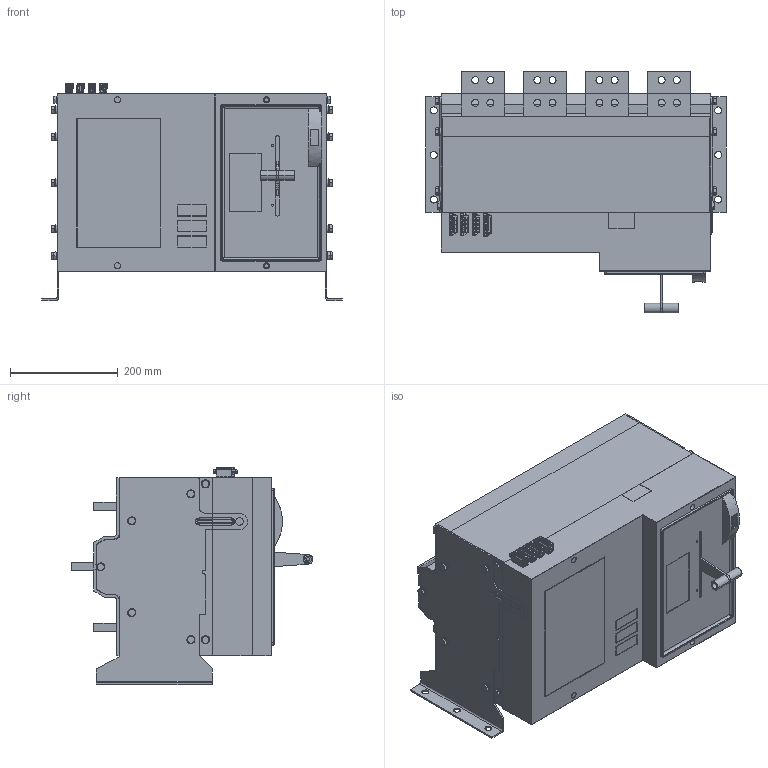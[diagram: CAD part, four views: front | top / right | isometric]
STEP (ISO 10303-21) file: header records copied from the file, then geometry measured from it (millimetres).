
FILE_DESCRIPTION (( 'STEP AP214' ), '1' );
FILE_NAME ('XKQE3150-1600A-4P.STEP', '2023-04-21T01:53:03', ( '' ), ( '' ), 'SwSTEP 2.0', 'SolidWorks 2020', '' );
FILE_SCHEMA (( 'AUTOMOTIVE_DESIGN' ));
Length unit declared in the file: millimetre
Products named in the file (11): 5XKQE.050.101.STEP.STEP; 1_2_1.STEP.STEP; 8XKQE-253-101_1_1.STEP.STEP; 媼棒傷赽; M8-25________.STEP; 5XKQE-024-102_3_2.STEP.STEP; XKQE3150-1600A-4P; 8XKQE-050-124_3_1.STEP.STEP; 5XKQE.551.127.2-4.STEP.STEP; 8XKQE-253-102_1_1.STEP.STEP; 8XKQE-003-100___.STEP.STEP
Assembly tree (26 placements, depth 2):
  XKQE3150-1600A-4P
    8XKQE-050-124_3_1.STEP.STEP
    1_2_1.STEP.STEP
    5XKQE.050.101.STEP.STEP
    8XKQE-253-102_1_1.STEP.STEP  x2
    8XKQE-003-100___.STEP.STEP
    8XKQE-253-101_1_1.STEP.STEP
    5XKQE-024-102_3_2.STEP.STEP
    5XKQE.551.127.2-4.STEP.STEP  x3
    M8-25________.STEP  x14
    媼棒傷赽
Bounding box: 557 x 448 x 402 mm (x, y, z)
Volume: 45266799 mm3; surface area: 2224997.1 mm2
Topology: 93 solids, 198 shells, 6202 faces, 16103 edges, 10531 vertices
Faces by surface type: plane 3914, cylinder 1484, cone 481, bspline 249, torus 66, sphere 8
Entity records: 243012 total; most frequent: CARTESIAN_POINT 50697, ORIENTED_EDGE 29590, DIRECTION 26190, EDGE_CURVE 14795, VECTOR 10056, LINE 10056, VERTEX_POINT 9701, AXIS2_PLACEMENT_3D 8067
